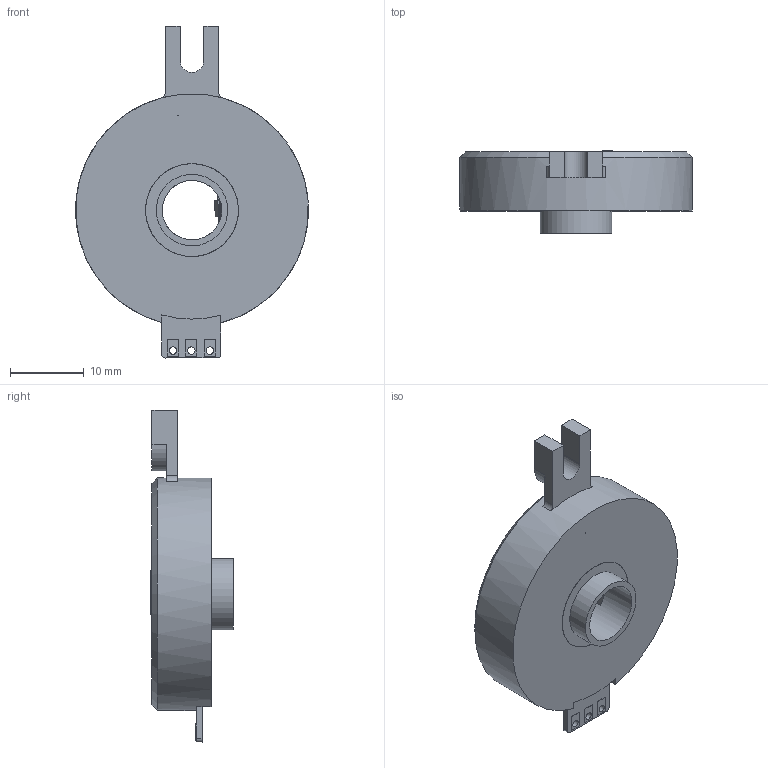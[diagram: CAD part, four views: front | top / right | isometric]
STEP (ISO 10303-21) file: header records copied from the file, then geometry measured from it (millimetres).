
FILE_DESCRIPTION (( 'STEP AP203' ), '1' );
FILE_NAME ('MHP32-neu.STEP', '2020-12-07T12:36:37', ( '' ), ( '' ), 'SwSTEP 2.0', 'SolidWorks 2019', '' );
FILE_SCHEMA (( 'CONFIG_CONTROL_DESIGN' ));
Length unit declared in the file: millimetre
Products named in the file (1): MHP32-neu
Bounding box: 31.5 x 11.15 x 44.92 mm (x, y, z)
Volume: 6017 mm3; surface area: 3611.4 mm2
Topology: 3 solids, 3 shells, 127 faces, 317 edges, 209 vertices
Faces by surface type: plane 90, cylinder 36, cone 1
Full cylindrical faces by diameter (mm): 1 x3, 1.2 x4, 8.05 x1, 9.67 x1, 12.57 x2, 31.5 x1
Entity records: 3776 total; most frequent: CARTESIAN_POINT 661, DIRECTION 621, ORIENTED_EDGE 604, EDGE_CURVE 302, LINE 223, VECTOR 223, VERTEX_POINT 207, AXIS2_PLACEMENT_3D 199
